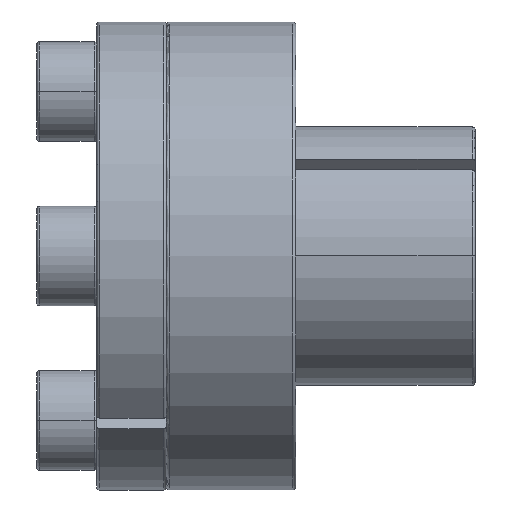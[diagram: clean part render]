
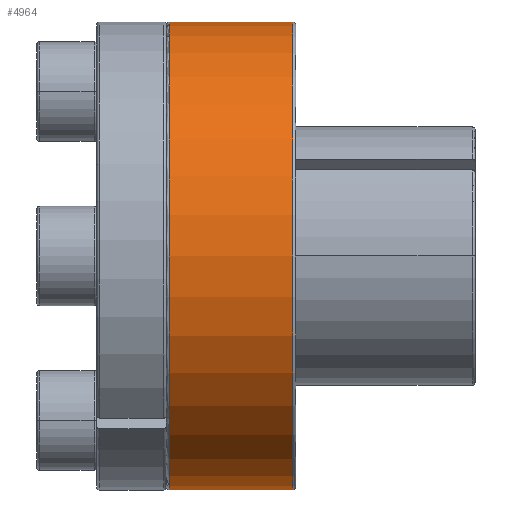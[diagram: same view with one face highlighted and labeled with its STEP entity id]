
A CAD part, front view. The second image highlights one B-rep face of the part: STEP entity #4964.
In plain terms, the highlighted cylindrical face has radius 23.5 mm (diameter 47 mm), a partial arc.
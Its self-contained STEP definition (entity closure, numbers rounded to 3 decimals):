
#104 = DIRECTION ( 'NONE',  ( 0., 0., 1. ) ) ;
#167 = DIRECTION ( 'NONE',  ( -1., 0., 0. ) ) ;
#259 = VECTOR ( 'NONE', #5079, 1000. ) ;
#319 = CARTESIAN_POINT ( 'NONE',  ( 7.3, 0., -23.5 ) ) ;
#330 = LINE ( 'NONE', #4641, #259 ) ;
#399 = LINE ( 'NONE', #1170, #2894 ) ;
#411 = EDGE_CURVE ( 'NONE', #5532, #4214, #2615, .T. ) ;
#678 = VERTEX_POINT ( 'NONE', #5862 ) ;
#735 = AXIS2_PLACEMENT_3D ( 'NONE', #3952, #5900, #1145 ) ;
#788 = CARTESIAN_POINT ( 'NONE',  ( 19.7, 0., 23.5 ) ) ;
#795 = ORIENTED_EDGE ( 'NONE', *, *, #4350, .F. ) ;
#1145 = DIRECTION ( 'NONE',  ( 0., 0., 1. ) ) ;
#1170 = CARTESIAN_POINT ( 'NONE',  ( 7., 0., 23.5 ) ) ;
#1401 = AXIS2_PLACEMENT_3D ( 'NONE', #5824, #167, #104 ) ;
#2321 = DIRECTION ( 'NONE',  ( 0., 0., -1. ) ) ;
#2615 = CIRCLE ( 'NONE', #735, 23.5 ) ;
#2702 = VERTEX_POINT ( 'NONE', #788 ) ;
#2894 = VECTOR ( 'NONE', #4855, 1000. ) ;
#3100 = ORIENTED_EDGE ( 'NONE', *, *, #5877, .T. ) ;
#3175 = EDGE_LOOP ( 'NONE', ( #795, #5582, #3100, #3307 ) ) ;
#3265 = CARTESIAN_POINT ( 'NONE',  ( 7., 0., 0. ) ) ;
#3277 = CIRCLE ( 'NONE', #1401, 23.5 ) ;
#3307 = ORIENTED_EDGE ( 'NONE', *, *, #3802, .T. ) ;
#3802 = EDGE_CURVE ( 'NONE', #678, #2702, #3277, .T. ) ;
#3952 = CARTESIAN_POINT ( 'NONE',  ( 7.3, 0., 0. ) ) ;
#4214 = VERTEX_POINT ( 'NONE', #319 ) ;
#4350 = EDGE_CURVE ( 'NONE', #5532, #2702, #399, .T. ) ;
#4453 = FACE_OUTER_BOUND ( 'NONE', #3175, .T. ) ;
#4641 = CARTESIAN_POINT ( 'NONE',  ( 7., 0., -23.5 ) ) ;
#4654 = AXIS2_PLACEMENT_3D ( 'NONE', #3265, #5188, #2321 ) ;
#4855 = DIRECTION ( 'NONE',  ( 1., 0., 0. ) ) ;
#4964 = ADVANCED_FACE ( 'NONE', ( #4453 ), #5127, .T. ) ;
#5079 = DIRECTION ( 'NONE',  ( 1., 0., 0. ) ) ;
#5085 = CARTESIAN_POINT ( 'NONE',  ( 7.3, 0., 23.5 ) ) ;
#5127 = CYLINDRICAL_SURFACE ( 'NONE', #4654, 23.5 ) ;
#5188 = DIRECTION ( 'NONE',  ( 1., 0., 0. ) ) ;
#5532 = VERTEX_POINT ( 'NONE', #5085 ) ;
#5582 = ORIENTED_EDGE ( 'NONE', *, *, #411, .T. ) ;
#5824 = CARTESIAN_POINT ( 'NONE',  ( 19.7, 0., 0. ) ) ;
#5862 = CARTESIAN_POINT ( 'NONE',  ( 19.7, 0., -23.5 ) ) ;
#5877 = EDGE_CURVE ( 'NONE', #4214, #678, #330, .T. ) ;
#5900 = DIRECTION ( 'NONE',  ( 1., 0., 0. ) ) ;
